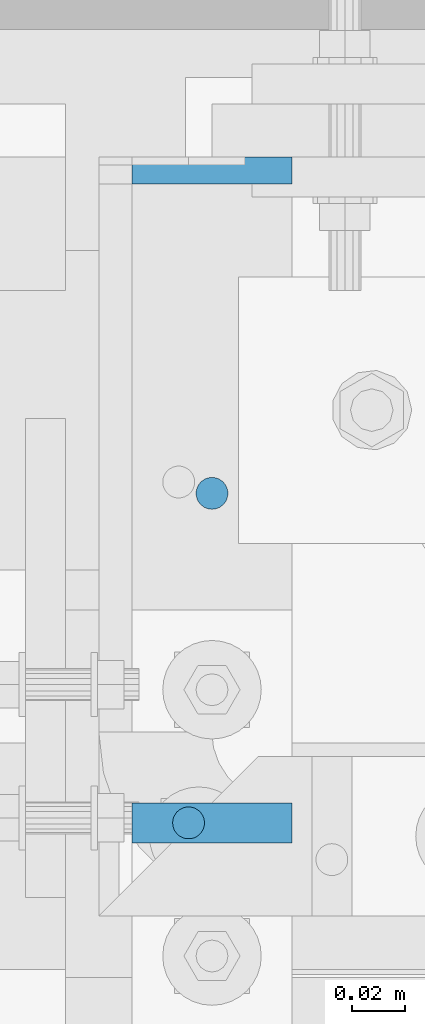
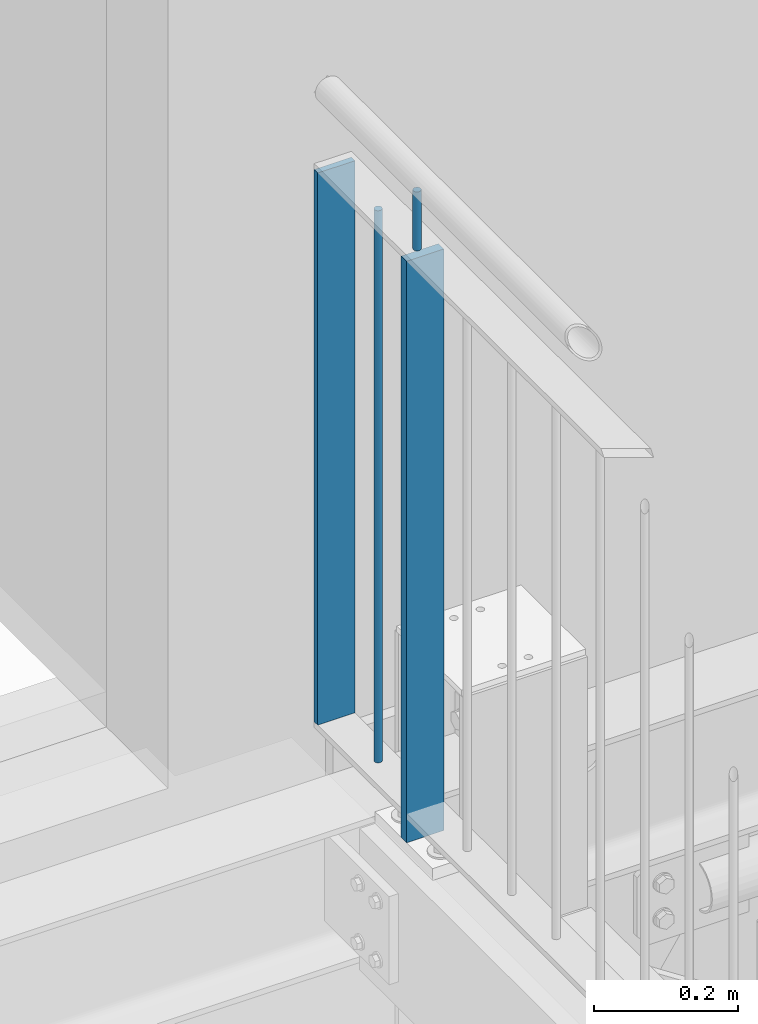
# One storey, part 69 of 831: 4 columns.
"""IFC2X3 building model written with IfcOpenShell, lengths in millimetres."""

import ifcopenshell
import ifcopenshell.guid

model = None  # the IFC model being written
_history = None  # IfcOwnerHistory: only IFC2X3 demands one
_inside = {}  # id of a spatial element -> (the spatial element, [elements in it])
_under = {}  # id of a project, library or spatial element -> (it, [spatial elements below it])
_declared = {}  # id of a project -> (the project, [libraries it declares])
_typed = {}  # id of a type object -> (the type object, [elements of that type])
_made_of = {}  # id of a material, layer set ... -> (it, [elements and type objects made of it])


def new_model(schema):
    """Start an empty IFC model of exactly this schema.

    Asked for "IFC4X3", IfcOpenShell would pick the latest addendum, in which some entities
    have other attributes; the version numbers below select the first issue.
    IFC2X3 requires an IfcOwnerHistory on every rooted entity: one is made here for all.
    """
    global model, _history
    if schema == "IFC4X3":
        model = ifcopenshell.file(schema_version=(4, 3, 0, 0))
    else:
        model = ifcopenshell.file(schema=schema)
    _inside.clear()
    _under.clear()
    _declared.clear()
    _typed.clear()
    _made_of.clear()
    _history = None
    if model.schema == "IFC2X3":
        org = make("IfcOrganization", Name="unknown")
        user = make(
            "IfcPersonAndOrganization",
            ThePerson=make("IfcPerson", FamilyName="unknown"),
            TheOrganization=org,
        )
        app = make(
            "IfcApplication",
            ApplicationDeveloper=org,
            Version="unknown",
            ApplicationFullName="unknown",
            ApplicationIdentifier="unknown",
        )
        _history = make(
            "IfcOwnerHistory",
            OwningUser=user,
            OwningApplication=app,
            ChangeAction="ADDED",
            CreationDate=0,
        )
    return model


def make(cls, **values):
    """One entity of the class cls with the attributes given. An attribute that is None is left unset."""
    return model.create_entity(
        cls, **{name: value for name, value in values.items() if value is not None}
    )


def entity(cls, *values):
    """Any entity or typed value of the class cls, its attributes in the order of the schema. None: left unset."""
    e = model.create_entity(cls)
    for i, value in enumerate(values):
        if value is not None:
            e[i] = value
    return e


def rooted(cls, **values):
    """An entity with a GlobalId (a new one), such as an element, a storey or a relation."""
    return make(cls, GlobalId=ifcopenshell.guid.new(), OwnerHistory=_history, **values)


def si_unit(unit_type, name, prefix=None):
    """IfcSIUnit, for example si_unit("LENGTHUNIT", "METRE", prefix="MILLI")."""
    return make("IfcSIUnit", UnitType=unit_type, Prefix=prefix, Name=name)


def converted_unit(unit_type, name, factor, base, dimensions=None, offset=None):
    """IfcConversionBasedUnit, such as the inch: factor (a typed value) times the base unit."""
    return make(
        "IfcConversionBasedUnit"
        if offset is None
        else "IfcConversionBasedUnitWithOffset",
        ConversionOffset=offset,
        Dimensions=None
        if dimensions is None
        else entity("IfcDimensionalExponents", *dimensions),
        UnitType=unit_type,
        Name=name,
        ConversionFactor=make(
            "IfcMeasureWithUnit", ValueComponent=factor, UnitComponent=base
        ),
    )


def assignment(units):
    """IfcUnitAssignment: the units of a project."""
    return None if units is None else make("IfcUnitAssignment", Units=units)


def point(xyz):
    """IfcCartesianPoint."""
    return None if xyz is None else make("IfcCartesianPoint", Coordinates=xyz)


def direction(xyz):
    """IfcDirection."""
    return None if xyz is None else make("IfcDirection", DirectionRatios=xyz)


def frame(location, z_axis=None, x_axis=None):
    """IfcAxis2Placement3D, a coordinate frame: its origin and axes. An axis left out is left unset."""
    return make(
        "IfcAxis2Placement3D",
        Location=point(location),
        Axis=direction(z_axis),
        RefDirection=direction(x_axis),
    )


def frame_2d(location, x_axis=None):
    """IfcAxis2Placement2D, a coordinate frame in the plane: its origin and x axis."""
    return make(
        "IfcAxis2Placement2D", Location=point(location), RefDirection=direction(x_axis)
    )


def origin():
    """The frame at (0, 0, 0) with its axes left unset."""
    return frame((0.0, 0.0, 0.0))


def origin_with_axes():
    """The frame at (0, 0, 0) with the z axis (0, 0, 1) and the x axis (1, 0, 0) written out."""
    return frame((0.0, 0.0, 0.0), z_axis=(0.0, 0.0, 1.0), x_axis=(1.0, 0.0, 0.0))


def origin_2d():
    """The frame at (0, 0) in the plane with its x axis left unset."""
    return frame_2d((0.0, 0.0))


def place(relative_to, where):
    """IfcLocalPlacement: puts the frame where relative to a parent placement (None: the world)."""
    return make(
        "IfcLocalPlacement", PlacementRelTo=relative_to, RelativePlacement=where
    )


def context(
    kind, dimensions, precision=None, world=None, true_north=None, identifier=None
):
    """IfcGeometricRepresentationContext, for example the 3D "Model" context."""
    return make(
        "IfcGeometricRepresentationContext",
        ContextIdentifier=identifier,
        ContextType=kind,
        CoordinateSpaceDimension=dimensions,
        Precision=precision,
        WorldCoordinateSystem=world,
        TrueNorth=true_north,
    )


def project(units=None, contexts=None):
    """IfcProject with its units and contexts."""
    return rooted(
        "IfcProject",
        Name="project",
        RepresentationContexts=contexts,
        UnitsInContext=assignment(units),
    )


def spatial(cls, under=None, at=None, **own):
    """A site, building, storey or space (cls), placed at a placement, below another one or the project."""
    s = rooted(cls, ObjectPlacement=at, **own)
    if under is not None:
        _under.setdefault(under.id(), (under, []))[1].append(s)
    return s


def profile(cls, at=None, kind="AREA", **sizes):
    """A parametric profile (cls). Its sizes go by their IFC names, for example OverallWidth=200.0."""
    return make(cls, ProfileType=kind, Position=at, **sizes)


def rectangle(**sizes):
    """IfcRectangleProfileDef."""
    return profile("IfcRectangleProfileDef", **sizes)


def circle(**sizes):
    """IfcCircleProfileDef."""
    return profile("IfcCircleProfileDef", **sizes)


def extrude(swept, where, along, depth):
    """IfcExtrudedAreaSolid: the profile swept, set in the frame where, extruded along a direction by depth."""
    return make(
        "IfcExtrudedAreaSolid",
        SweptArea=swept,
        Position=where,
        ExtrudedDirection=direction(along),
        Depth=depth,
    )


def clip(a, b, op="DIFFERENCE"):
    """IfcBooleanClippingResult: the solid a cut by the half space b."""
    return make(
        "IfcBooleanClippingResult", Operator=op, FirstOperand=a, SecondOperand=b
    )


def halfspace(plane, agree):
    """IfcHalfSpaceSolid: all space on one side of the plane z = 0 of the frame plane."""
    return make(
        "IfcHalfSpaceSolid",
        BaseSurface=make("IfcPlane", Position=plane),
        AgreementFlag=agree,
    )


def shape(context_of_items, identifier, shape_type, items):
    """IfcShapeRepresentation: the items that make up one representation, for example the "Body"."""
    return make(
        "IfcShapeRepresentation",
        ContextOfItems=context_of_items,
        RepresentationIdentifier=identifier,
        RepresentationType=shape_type,
        Items=items,
    )


def material(Name=None, Category=None):
    """IfcMaterial."""
    return make("IfcMaterial", Name=Name, Category=Category)


def made_of(thing, what):
    """Note that an element or type object is made of a material, layer set ...; save() writes the relation."""
    if what is not None:
        _made_of.setdefault(what.id(), (what, []))[1].append(thing)
    return thing


def element(
    cls,
    number,
    at=None,
    inside=None,
    cuts=None,
    type_object=None,
    material=None,
    context=None,
    identifier="Body",
    shape_type=None,
    held_by="IfcProductDefinitionShape",
    body=None,
    shapes=None,
    **own,
):
    """One element of the class cls, such as IfcWall. Its Tag is "e" and its number.

    at: its placement. inside: the storey or other place that contains it. cuts: it is an
    opening in that element (IfcRelVoidsElement). A single representation is given by context,
    identifier, shape_type and body (its items); several are given by shapes. held_by: the class
    of the entity that holds the representations. save() writes the other relations.
    """
    e = rooted(cls, Tag="e%d" % number, ObjectPlacement=at, **own)
    if body is not None:
        shapes = [shape(context, identifier, shape_type, body)]
    if shapes is not None:
        e.Representation = make(held_by, Representations=shapes)
    if inside is not None:
        _inside.setdefault(inside.id(), (inside, []))[1].append(e)
    if cuts is not None:
        rooted(
            "IfcRelVoidsElement", RelatingBuildingElement=cuts, RelatedOpeningElement=e
        )
    if type_object is not None:
        _typed.setdefault(type_object.id(), (type_object, []))[1].append(e)
    return made_of(e, material)


def aggregate(whole, parts):
    """IfcRelAggregates: a whole, such as a stair, and the parts it consists of."""
    return rooted("IfcRelAggregates", RelatingObject=whole, RelatedObjects=parts)


def save(model, path):
    """Write the relations noted so far, then the file.

    IfcRelAggregates (storeys below a building ...), IfcRelContainedInSpatialStructure (elements
    in a storey), IfcRelDefinesByType, IfcRelAssociatesMaterial and IfcRelDeclares: one each for
    every whole, place, type object, material and project.
    """
    for whole, parts in _under.values():
        aggregate(whole, parts)
    for where, things in _inside.values():
        rooted(
            "IfcRelContainedInSpatialStructure",
            RelatedElements=things,
            RelatingStructure=where,
        )
    for kind, things in _typed.values():
        rooted("IfcRelDefinesByType", RelatedObjects=things, RelatingType=kind)
    for what, things in _made_of.values():
        rooted("IfcRelAssociatesMaterial", RelatedObjects=things, RelatingMaterial=what)
    for by, libraries in _declared.values():
        rooted("IfcRelDeclares", RelatingContext=by, RelatedDefinitions=libraries)
    model.write(path)


model = new_model("IFC2X3")

# Units and contexts
model_context = context("Model", 3, precision=1e-09, world=origin_with_axes())
ifc_project = project(units=[si_unit("LENGTHUNIT", "METRE", prefix="MILLI"), si_unit("AREAUNIT", "SQUARE_METRE"), si_unit("VOLUMEUNIT", "CUBIC_METRE"), converted_unit("PLANEANGLEUNIT", "DEGREE", entity("IfcPlaneAngleMeasure", 0.01745329), si_unit("PLANEANGLEUNIT", "RADIAN"), dimensions=[0, 0, 0, 0, 0, 0, 0])], contexts=[model_context])

# Site, building, storey
site_placement = place(None, origin_with_axes())
site = spatial("IfcSite", under=ifc_project, at=site_placement, Name="Site", CompositionType="ELEMENT")
building_placement = place(site_placement, origin_with_axes())
building = spatial("IfcBuilding", under=site, at=building_placement, Name="Struktur 1", CompositionType="ELEMENT")
storey_placement = place(building_placement, origin_with_axes())
storey = spatial("IfcBuildingStorey", under=building, at=storey_placement, Name="Default Storey", CompositionType="ELEMENT", Elevation=0.0)

# Columns
ifc_material = material(Name="S235JR")
column_1_placement = place(None, frame((4656.713402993, 7361.736971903, 18873.723292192), z_axis=(0.0, 0.0, 1.0), x_axis=(0.0, 1.0, 0.0)))
element("IfcColumn", 1, at=column_1_placement, inside=storey, material=ifc_material, Name="Railing_Post_Landing#4", ObjectType="Railing_Post_Landing#4", context=model_context, shape_type="Clipping", body=[
    clip(clip(extrude(rectangle(XDim=15.0, YDim=60.0, at=origin_2d()), origin(), (0.0, 0.0, -1.0), 1070.646584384), halfspace(frame((-7361.736971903, 4656.713402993, -1019.722292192), z_axis=(0.0, 0.0, 1.0), x_axis=(0.0, -1.0, 0.0)), True)), halfspace(frame((-7361.736971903, 4656.713402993, -30.924292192), z_axis=(0.0, 0.0, -1.0), x_axis=(0.0, 1.0, 0.0)), True)),
])
column_2_placement = place(None, frame((4647.913402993, 7361.736971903, 18961.285281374), z_axis=(0.0, 0.0, 1.0), x_axis=(1.0, 0.0, 0.0)))
element("IfcColumn", 2, at=column_2_placement, inside=storey, material=ifc_material, Name="Bar#4", ObjectType="Bar#4", context=model_context, shape_type="Clipping", body=[
    clip(clip(extrude(circle(Radius=6.0, at=origin_2d()), origin(), (0.0, 0.0, -1.0), 116.970562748), halfspace(frame((-4647.913402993, -7361.736971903, -8.486281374), z_axis=(0.0, 0.0, -1.0), x_axis=(-1.0, 0.0, 0.0)), True)), halfspace(frame((-4647.913402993, -7361.736971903, -108.484281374), z_axis=(0.0, 0.0, 1.0), x_axis=(1.0, 0.0, 0.0)), True)),
])
column_3_placement = place(None, frame((4656.713402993, 7606.736971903, 17904.0), z_axis=(0.0, 0.0, -1.0), x_axis=(0.0, 1.0, 0.0)))
element("IfcColumn", 3, at=column_3_placement, inside=storey, material=ifc_material, Name="Railing_Kneerail_Landing#8", ObjectType="Railing_Kneerail_Landing#8", context=model_context, shape_type="SweptSolid", body=[
    extrude(rectangle(XDim=10.0, YDim=60.0, at=origin_2d()), origin(), (0.0, 0.0, -1.0), 938.8),
])
column_4_placement = place(None, frame((4656.713402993, 7485.486971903, 18856.285281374), z_axis=(0.0, 0.0, 1.0), x_axis=(0.0, 1.0, 0.0)))
element("IfcColumn", 4, at=column_4_placement, inside=storey, material=ifc_material, Name="Railing_Picket_Landing#27", ObjectType="Railing_Picket_Landing#27", context=model_context, shape_type="Clipping", body=[
    clip(clip(extrude(circle(Radius=6.0, at=origin_2d()), origin(), (0.0, 0.0, -1.0), 965.770562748), halfspace(frame((-7485.486971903, 4656.713402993, -13.486281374), z_axis=(0.0, 0.0, -1.0), x_axis=(0.0, 1.0, 0.0)), True)), halfspace(frame((-7485.486971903, 4656.713402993, -952.284281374), z_axis=(0.0, 0.0, 1.0), x_axis=(0.0, -1.0, 0.0)), True)),
])

save(model, "model.ifc")
